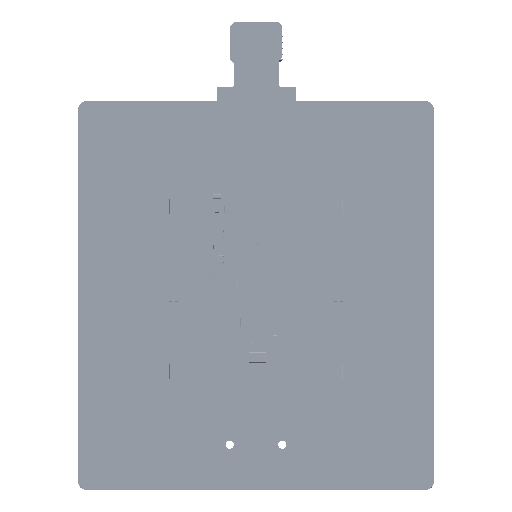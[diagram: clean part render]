
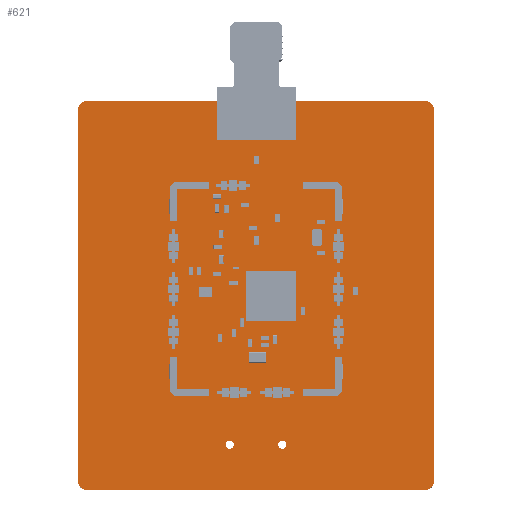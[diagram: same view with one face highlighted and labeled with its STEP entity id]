
A CAD part, top view. The second image highlights one B-rep face of the part: STEP entity #621.
In plain terms, the highlighted planar face has unit normal (0, 0, 1).
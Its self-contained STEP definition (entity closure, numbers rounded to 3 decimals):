
#284 = VERTEX_POINT('',#285);
#285 = CARTESIAN_POINT('',(0.,1.,1.56));
#291 = EDGE_CURVE('',#284,#292,#294,.T.);
#292 = VERTEX_POINT('',#293);
#293 = CARTESIAN_POINT('',(1.,0.,1.56));
#294 = CIRCLE('',#295,1.);
#295 = AXIS2_PLACEMENT_3D('',#296,#297,#298);
#296 = CARTESIAN_POINT('',(1.,1.,1.56));
#297 = DIRECTION('',(0.,0.,1.));
#298 = DIRECTION('',(-1.,0.,0.));
#324 = EDGE_CURVE('',#292,#325,#327,.T.);
#325 = VERTEX_POINT('',#326);
#326 = CARTESIAN_POINT('',(42.,0.,1.56));
#327 = LINE('',#328,#329);
#328 = CARTESIAN_POINT('',(1.,0.,1.56));
#329 = VECTOR('',#330,1.);
#330 = DIRECTION('',(1.,0.,0.));
#355 = EDGE_CURVE('',#325,#356,#358,.T.);
#356 = VERTEX_POINT('',#357);
#357 = CARTESIAN_POINT('',(43.,1.,1.56));
#358 = CIRCLE('',#359,1.);
#359 = AXIS2_PLACEMENT_3D('',#360,#361,#362);
#360 = CARTESIAN_POINT('',(42.,1.,1.56));
#361 = DIRECTION('',(0.,0.,1.));
#362 = DIRECTION('',(0.,-1.,0.));
#388 = EDGE_CURVE('',#356,#389,#391,.T.);
#389 = VERTEX_POINT('',#390);
#390 = CARTESIAN_POINT('',(43.,46.,1.56));
#391 = LINE('',#392,#393);
#392 = CARTESIAN_POINT('',(43.,1.,1.56));
#393 = VECTOR('',#394,1.);
#394 = DIRECTION('',(0.,1.,0.));
#419 = EDGE_CURVE('',#389,#420,#422,.T.);
#420 = VERTEX_POINT('',#421);
#421 = CARTESIAN_POINT('',(42.,47.,1.56));
#422 = CIRCLE('',#423,1.);
#423 = AXIS2_PLACEMENT_3D('',#424,#425,#426);
#424 = CARTESIAN_POINT('',(42.,46.,1.56));
#425 = DIRECTION('',(0.,0.,1.));
#426 = DIRECTION('',(1.,0.,-0.));
#452 = EDGE_CURVE('',#420,#453,#455,.T.);
#453 = VERTEX_POINT('',#454);
#454 = CARTESIAN_POINT('',(1.,47.,1.56));
#455 = LINE('',#456,#457);
#456 = CARTESIAN_POINT('',(42.,47.,1.56));
#457 = VECTOR('',#458,1.);
#458 = DIRECTION('',(-1.,0.,0.));
#483 = EDGE_CURVE('',#453,#484,#486,.T.);
#484 = VERTEX_POINT('',#485);
#485 = CARTESIAN_POINT('',(0.,46.,1.56));
#486 = CIRCLE('',#487,1.);
#487 = AXIS2_PLACEMENT_3D('',#488,#489,#490);
#488 = CARTESIAN_POINT('',(1.,46.,1.56));
#489 = DIRECTION('',(0.,0.,1.));
#490 = DIRECTION('',(0.,1.,0.));
#516 = EDGE_CURVE('',#484,#284,#517,.T.);
#517 = LINE('',#518,#519);
#518 = CARTESIAN_POINT('',(0.,46.,1.56));
#519 = VECTOR('',#520,1.);
#520 = DIRECTION('',(0.,-1.,0.));
#540 = VERTEX_POINT('',#541);
#541 = CARTESIAN_POINT('',(18.825,5.465,1.56));
#547 = EDGE_CURVE('',#540,#540,#548,.T.);
#548 = CIRCLE('',#549,0.5);
#549 = AXIS2_PLACEMENT_3D('',#550,#551,#552);
#550 = CARTESIAN_POINT('',(18.325,5.465,1.56));
#551 = DIRECTION('',(0.,0.,1.));
#552 = DIRECTION('',(1.,0.,-0.));
#573 = VERTEX_POINT('',#574);
#574 = CARTESIAN_POINT('',(25.175,5.465,1.56));
#580 = EDGE_CURVE('',#573,#573,#581,.T.);
#581 = CIRCLE('',#582,0.5);
#582 = AXIS2_PLACEMENT_3D('',#583,#584,#585);
#583 = CARTESIAN_POINT('',(24.675,5.465,1.56));
#584 = DIRECTION('',(0.,0.,1.));
#585 = DIRECTION('',(1.,0.,-0.));
#621 = ADVANCED_FACE('',(#622,#632,#635),#638,.T.);
#622 = FACE_BOUND('',#623,.T.);
#623 = EDGE_LOOP('',(#624,#625,#626,#627,#628,#629,#630,#631));
#624 = ORIENTED_EDGE('',*,*,#291,.T.);
#625 = ORIENTED_EDGE('',*,*,#324,.T.);
#626 = ORIENTED_EDGE('',*,*,#355,.T.);
#627 = ORIENTED_EDGE('',*,*,#388,.T.);
#628 = ORIENTED_EDGE('',*,*,#419,.T.);
#629 = ORIENTED_EDGE('',*,*,#452,.T.);
#630 = ORIENTED_EDGE('',*,*,#483,.T.);
#631 = ORIENTED_EDGE('',*,*,#516,.T.);
#632 = FACE_BOUND('',#633,.T.);
#633 = EDGE_LOOP('',(#634));
#634 = ORIENTED_EDGE('',*,*,#547,.F.);
#635 = FACE_BOUND('',#636,.T.);
#636 = EDGE_LOOP('',(#637));
#637 = ORIENTED_EDGE('',*,*,#580,.F.);
#638 = PLANE('',#639);
#639 = AXIS2_PLACEMENT_3D('',#640,#641,#642);
#640 = CARTESIAN_POINT('',(21.5,23.5,1.56));
#641 = DIRECTION('',(0.,0.,1.));
#642 = DIRECTION('',(1.,0.,-0.));
